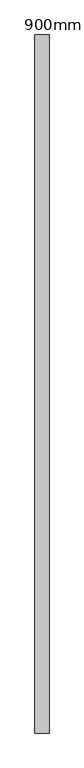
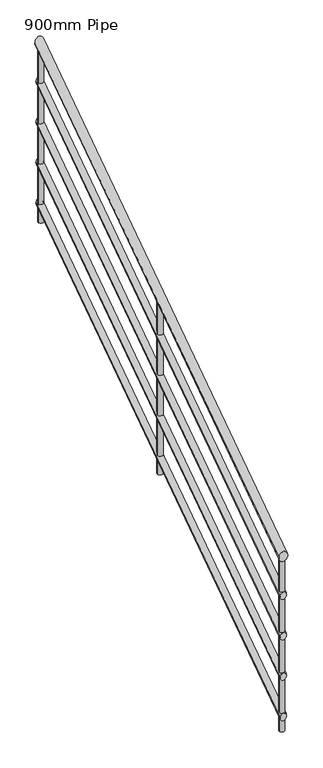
"""IFC4 building model written with IfcOpenShell, lengths in millimetres: railing geometry, 900mm Pipe."""

import ifcopenshell
import ifcopenshell.guid

model = None  # the IFC model being written
_history = None  # IfcOwnerHistory: only IFC2X3 demands one
_inside = {}  # id of a spatial element -> (the spatial element, [elements in it])
_under = {}  # id of a project, library or spatial element -> (it, [spatial elements below it])
_declared = {}  # id of a project -> (the project, [libraries it declares])
_typed = {}  # id of a type object -> (the type object, [elements of that type])
_made_of = {}  # id of a material, layer set ... -> (it, [elements and type objects made of it])


def new_model(schema):
    """Start an empty IFC model of exactly this schema.

    Asked for "IFC4X3", IfcOpenShell would pick the latest addendum, in which some entities
    have other attributes; the version numbers below select the first issue.
    IFC2X3 requires an IfcOwnerHistory on every rooted entity: one is made here for all.
    """
    global model, _history
    if schema == "IFC4X3":
        model = ifcopenshell.file(schema_version=(4, 3, 0, 0))
    else:
        model = ifcopenshell.file(schema=schema)
    _inside.clear()
    _under.clear()
    _declared.clear()
    _typed.clear()
    _made_of.clear()
    _history = None
    if model.schema == "IFC2X3":
        org = make("IfcOrganization", Name="unknown")
        user = make(
            "IfcPersonAndOrganization",
            ThePerson=make("IfcPerson", FamilyName="unknown"),
            TheOrganization=org,
        )
        app = make(
            "IfcApplication",
            ApplicationDeveloper=org,
            Version="unknown",
            ApplicationFullName="unknown",
            ApplicationIdentifier="unknown",
        )
        _history = make(
            "IfcOwnerHistory",
            OwningUser=user,
            OwningApplication=app,
            ChangeAction="ADDED",
            CreationDate=0,
        )
    return model


def make(cls, **values):
    """One entity of the class cls with the attributes given. An attribute that is None is left unset."""
    return model.create_entity(
        cls, **{name: value for name, value in values.items() if value is not None}
    )


def rooted(cls, **values):
    """An entity with a GlobalId (a new one), such as an element, a storey or a relation."""
    return make(cls, GlobalId=ifcopenshell.guid.new(), OwnerHistory=_history, **values)


def si_unit(unit_type, name, prefix=None):
    """IfcSIUnit, for example si_unit("LENGTHUNIT", "METRE", prefix="MILLI")."""
    return make("IfcSIUnit", UnitType=unit_type, Prefix=prefix, Name=name)


def assignment(units):
    """IfcUnitAssignment: the units of a project."""
    return None if units is None else make("IfcUnitAssignment", Units=units)


def point(xyz):
    """IfcCartesianPoint."""
    return None if xyz is None else make("IfcCartesianPoint", Coordinates=xyz)


def direction(xyz):
    """IfcDirection."""
    return None if xyz is None else make("IfcDirection", DirectionRatios=xyz)


def frame(location, z_axis=None, x_axis=None):
    """IfcAxis2Placement3D, a coordinate frame: its origin and axes. An axis left out is left unset."""
    return make(
        "IfcAxis2Placement3D",
        Location=point(location),
        Axis=direction(z_axis),
        RefDirection=direction(x_axis),
    )


def origin():
    """The frame at (0, 0, 0) with its axes left unset."""
    return frame((0.0, 0.0, 0.0))


def place(relative_to, where):
    """IfcLocalPlacement: puts the frame where relative to a parent placement (None: the world)."""
    return make(
        "IfcLocalPlacement", PlacementRelTo=relative_to, RelativePlacement=where
    )


def context(
    kind, dimensions, precision=None, world=None, true_north=None, identifier=None
):
    """IfcGeometricRepresentationContext, for example the 3D "Model" context."""
    return make(
        "IfcGeometricRepresentationContext",
        ContextIdentifier=identifier,
        ContextType=kind,
        CoordinateSpaceDimension=dimensions,
        Precision=precision,
        WorldCoordinateSystem=world,
        TrueNorth=true_north,
    )


def project(units=None, contexts=None):
    """IfcProject with its units and contexts."""
    return rooted(
        "IfcProject",
        Name="project",
        RepresentationContexts=contexts,
        UnitsInContext=assignment(units),
    )


def spatial(cls, under=None, at=None, **own):
    """A site, building, storey or space (cls), placed at a placement, below another one or the project."""
    s = rooted(cls, ObjectPlacement=at, **own)
    if under is not None:
        _under.setdefault(under.id(), (under, []))[1].append(s)
    return s


def circle_curve(where, radius):
    """IfcCircle in the frame where."""
    return make("IfcCircle", Position=where, Radius=radius)


def ellipse_curve(where, semi_axis1, semi_axis2):
    """IfcEllipse in the frame where."""
    return make(
        "IfcEllipse", Position=where, SemiAxis1=semi_axis1, SemiAxis2=semi_axis2
    )


def shape(context_of_items, identifier, shape_type, items):
    """IfcShapeRepresentation: the items that make up one representation, for example the "Body"."""
    return make(
        "IfcShapeRepresentation",
        ContextOfItems=context_of_items,
        RepresentationIdentifier=identifier,
        RepresentationType=shape_type,
        Items=items,
    )


def source(mapping_origin, context_of_items, identifier, shape_type, items):
    """IfcRepresentationMap: a shape defined once, which mapped items show again and again."""
    return make(
        "IfcRepresentationMap",
        MappingOrigin=mapping_origin,
        MappedRepresentation=shape(context_of_items, identifier, shape_type, items),
    )


def transform(
    local_origin,
    x_axis=None,
    y_axis=None,
    z_axis=None,
    scale=None,
    scale2=None,
    scale3=None,
    uniform=True,
):
    """IfcCartesianTransformationOperator3D, or its non-uniform kind. x_axis, y_axis, z_axis: its Axis1, 2, 3."""
    if uniform:
        return make(
            "IfcCartesianTransformationOperator3D",
            Axis1=direction(x_axis),
            Axis2=direction(y_axis),
            LocalOrigin=point(local_origin),
            Scale=scale,
            Axis3=direction(z_axis),
        )
    return make(
        "IfcCartesianTransformationOperator3DnonUniform",
        Axis1=direction(x_axis),
        Axis2=direction(y_axis),
        LocalOrigin=point(local_origin),
        Scale=scale,
        Axis3=direction(z_axis),
        Scale2=scale2,
        Scale3=scale3,
    )


def mapped(mapping_source, mapping_target):
    """IfcMappedItem: shows the shape of a source again, moved by a transform."""
    return make(
        "IfcMappedItem", MappingSource=mapping_source, MappingTarget=mapping_target
    )


def made_of(thing, what):
    """Note that an element or type object is made of a material, layer set ...; save() writes the relation."""
    if what is not None:
        _made_of.setdefault(what.id(), (what, []))[1].append(thing)
    return thing


def element(
    cls,
    number,
    at=None,
    inside=None,
    cuts=None,
    type_object=None,
    material=None,
    context=None,
    identifier="Body",
    shape_type=None,
    held_by="IfcProductDefinitionShape",
    body=None,
    shapes=None,
    **own,
):
    """One element of the class cls, such as IfcWall. Its Tag is "e" and its number.

    at: its placement. inside: the storey or other place that contains it. cuts: it is an
    opening in that element (IfcRelVoidsElement). A single representation is given by context,
    identifier, shape_type and body (its items); several are given by shapes. held_by: the class
    of the entity that holds the representations. save() writes the other relations.
    """
    e = rooted(cls, Tag="e%d" % number, ObjectPlacement=at, **own)
    if body is not None:
        shapes = [shape(context, identifier, shape_type, body)]
    if shapes is not None:
        e.Representation = make(held_by, Representations=shapes)
    if inside is not None:
        _inside.setdefault(inside.id(), (inside, []))[1].append(e)
    if cuts is not None:
        rooted(
            "IfcRelVoidsElement", RelatingBuildingElement=cuts, RelatedOpeningElement=e
        )
    if type_object is not None:
        _typed.setdefault(type_object.id(), (type_object, []))[1].append(e)
    return made_of(e, material)


def aggregate(whole, parts):
    """IfcRelAggregates: a whole, such as a stair, and the parts it consists of."""
    return rooted("IfcRelAggregates", RelatingObject=whole, RelatedObjects=parts)


def save(model, path):
    """Write the relations noted so far, then the file.

    IfcRelAggregates (storeys below a building ...), IfcRelContainedInSpatialStructure (elements
    in a storey), IfcRelDefinesByType, IfcRelAssociatesMaterial and IfcRelDeclares: one each for
    every whole, place, type object, material and project.
    """
    for whole, parts in _under.values():
        aggregate(whole, parts)
    for where, things in _inside.values():
        rooted(
            "IfcRelContainedInSpatialStructure",
            RelatedElements=things,
            RelatingStructure=where,
        )
    for kind, things in _typed.values():
        rooted("IfcRelDefinesByType", RelatedObjects=things, RelatingType=kind)
    for what, things in _made_of.values():
        rooted("IfcRelAssociatesMaterial", RelatedObjects=things, RelatingMaterial=what)
    for by, libraries in _declared.values():
        rooted("IfcRelDeclares", RelatingContext=by, RelatedDefinitions=libraries)
    model.write(path)


def plane_surface(at):
    """IfcPlane: the flat surface through the origin of the frame at, square to its z axis."""
    return make("IfcPlane", Position=at)


def cylinder_surface(at, radius):
    """IfcCylindricalSurface: all points at the distance radius from the z axis of the frame at."""
    return make("IfcCylindricalSurface", Position=at, Radius=radius)


def advanced_brep(points, edges, surfaces, faces):
    """IfcAdvancedBrep: a solid bounded by faces that lie on surfaces and meet in shared edges.

    An edge is (start, end): straight between two places in points (the first is 0);
    or (start, end, curve); or (start, end, curve, False) where it runs against its curve.
    A face is (place in surfaces, loops), or (place, loops, False) where it looks against
    its surface's normal. A loop lists edges by number (the first is 1), with a minus sign
    where the edge is run from its end to its start. The first loop is the outer one.
    """
    corners = [point(p) for p in points]
    vertices = [make("IfcVertexPoint", VertexGeometry=c) for c in corners]
    made = []
    for start, end, *more in edges:
        made.append(
            make(
                "IfcEdgeCurve",
                EdgeStart=vertices[start],
                EdgeEnd=vertices[end],
                EdgeGeometry=more[0] if more else make("IfcPolyline", Points=[corners[start], corners[end]]),
                SameSense=more[1] if len(more) > 1 else True,
            )
        )
    hull = []
    for where, loops, *sense in faces:
        bounds = []
        for j, loop in enumerate(loops):
            ring = [make("IfcOrientedEdge", EdgeElement=made[abs(k) - 1], Orientation=k > 0) for k in loop]
            bounds.append(
                make(
                    "IfcFaceOuterBound" if j == 0 else "IfcFaceBound",
                    Bound=make("IfcEdgeLoop", EdgeList=ring),
                    Orientation=True,
                )
            )
        hull.append(make("IfcAdvancedFace", Bounds=bounds, FaceSurface=surfaces[where], SameSense=sense[0] if sense else True))
    return make("IfcAdvancedBrep", Outer=make("IfcClosedShell", CfsFaces=hull))


def railing_900mm_pipe_c575d317(model_context):
    return source(origin(), model_context, "Body", "AdvancedBrep", [
        advanced_brep(
        [(-7788.3266822, -8881.7671527, -474.2064126), (-7828.3266822, -8881.7671527, -474.2064126), (-7788.3266822, -6901.7671527, 875.7935874), (-7828.3266822, -6901.7671527, 875.7935874)],
        [
            (0, 1, ellipse_curve(frame((-7808.3266822, -8881.7671527, -474.2064126), z_axis=(0.0, -1.0, 0.0), x_axis=(0.0, 0.0, -1.0)), 24.2064126, 20.0)),
            (1, 0, ellipse_curve(frame((-7808.3266822, -8881.7671527, -474.2064126), z_axis=(0.0, -1.0, 0.0), x_axis=(0.0, 0.0, -1.0)), 24.2064126, 20.0)),
            (2, 3, ellipse_curve(frame((-7808.3266822, -6901.7671527, 875.7935874), z_axis=(0.0, 1.0, 0.0), x_axis=(0.0, 0.0, -1.0)), 24.2064126, 20.0)),
            (3, 2, ellipse_curve(frame((-7808.3266822, -6901.7671527, 875.7935874), z_axis=(0.0, 1.0, 0.0), x_axis=(0.0, 0.0, -1.0)), 24.2064126, 20.0)),
            (0, 2),
            (3, 1),
        ],
        [
            plane_surface(frame((-7808.3266822, -8881.7671527, -450.0), z_axis=(0.0, -1.0, 0.0), x_axis=(0.0, 0.0, 1.0))),
            plane_surface(frame((-7808.3266822, -6901.7671527, 900.0), z_axis=(0.0, 1.0, 0.0), x_axis=(0.0, 0.0, 1.0))),
            cylinder_surface(frame((-7808.3266822, -8870.5004163, -466.5245469), z_axis=(0.0, -0.8262273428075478, -0.5633368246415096), x_axis=(-1.0, 0.0, 0.0)), 20.0),
        ],
        [
            (0, [[1, 2]]),
            (1, [[3, 4]]),
            (2, [[-1, 5, -4, 6]]),
            (2, [[-2, -6, -3, -5]]),
        ],
    ),
        advanced_brep(
        [(-7793.3266822, -8881.7671527, -668.1548095), (-7823.3266822, -8881.7671527, -668.1548095), (-7793.3266822, -6901.7671527, 681.8451905), (-7823.3266822, -6901.7671527, 681.8451905)],
        [
            (0, 1, ellipse_curve(frame((-7808.3266822, -8881.7671527, -668.1548095), z_axis=(0.0, -1.0, 0.0), x_axis=(0.0, 0.0, -1.0)), 18.1548095, 15.0)),
            (1, 0, ellipse_curve(frame((-7808.3266822, -8881.7671527, -668.1548095), z_axis=(0.0, -1.0, 0.0), x_axis=(0.0, 0.0, -1.0)), 18.1548095, 15.0)),
            (2, 3, ellipse_curve(frame((-7808.3266822, -6901.7671527, 681.8451905), z_axis=(0.0, 1.0, 0.0), x_axis=(0.0, 0.0, -1.0)), 18.1548095, 15.0)),
            (3, 2, ellipse_curve(frame((-7808.3266822, -6901.7671527, 681.8451905), z_axis=(0.0, 1.0, 0.0), x_axis=(0.0, 0.0, -1.0)), 18.1548095, 15.0)),
            (0, 2),
            (3, 1),
        ],
        [
            plane_surface(frame((-7808.3266822, -8881.7671527, -650.0), z_axis=(0.0, -1.0, 0.0), x_axis=(0.0, 0.0, 1.0))),
            plane_surface(frame((-7808.3266822, -6901.7671527, 700.0), z_axis=(0.0, 1.0, 0.0), x_axis=(0.0, 0.0, 1.0))),
            cylinder_surface(frame((-7808.3266822, -8873.3171004, -662.3934101), z_axis=(0.0, -0.8262273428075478, -0.5633368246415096), x_axis=(-1.0, 0.0, 0.0)), 15.0),
        ],
        [
            (0, [[1, 2]]),
            (1, [[3, 4]]),
            (2, [[-1, 5, -4, 6]]),
            (2, [[-2, -6, -3, -5]]),
        ],
    ),
        advanced_brep(
        [(-7793.3266822, -8881.7671527, -868.1548095), (-7823.3266822, -8881.7671527, -868.1548095), (-7793.3266822, -6901.7671527, 481.8451905), (-7823.3266822, -6901.7671527, 481.8451905)],
        [
            (0, 1, ellipse_curve(frame((-7808.3266822, -8881.7671527, -868.1548095), z_axis=(0.0, -1.0, 0.0), x_axis=(0.0, 0.0, -1.0)), 18.1548095, 15.0)),
            (1, 0, ellipse_curve(frame((-7808.3266822, -8881.7671527, -868.1548095), z_axis=(0.0, -1.0, 0.0), x_axis=(0.0, 0.0, -1.0)), 18.1548095, 15.0)),
            (2, 3, ellipse_curve(frame((-7808.3266822, -6901.7671527, 481.8451905), z_axis=(0.0, 1.0, 0.0), x_axis=(0.0, 0.0, -1.0)), 18.1548095, 15.0)),
            (3, 2, ellipse_curve(frame((-7808.3266822, -6901.7671527, 481.8451905), z_axis=(0.0, 1.0, 0.0), x_axis=(0.0, 0.0, -1.0)), 18.1548095, 15.0)),
            (0, 2),
            (3, 1),
        ],
        [
            plane_surface(frame((-7808.3266822, -8881.7671527, -850.0), z_axis=(0.0, -1.0, 0.0), x_axis=(0.0, 0.0, 1.0))),
            plane_surface(frame((-7808.3266822, -6901.7671527, 500.0), z_axis=(0.0, 1.0, 0.0), x_axis=(0.0, 0.0, 1.0))),
            cylinder_surface(frame((-7808.3266822, -8873.3171004, -862.3934101), z_axis=(0.0, -0.8262273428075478, -0.5633368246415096), x_axis=(-1.0, 0.0, 0.0)), 15.0),
        ],
        [
            (0, [[1, 2]]),
            (1, [[3, 4]]),
            (2, [[-1, 5, -4, 6]]),
            (2, [[-2, -6, -3, -5]]),
        ],
    ),
        advanced_brep(
        [(-7793.3266822, -8881.7671527, -1068.1548095), (-7823.3266822, -8881.7671527, -1068.1548095), (-7793.3266822, -6901.7671527, 281.8451905), (-7823.3266822, -6901.7671527, 281.8451905)],
        [
            (0, 1, ellipse_curve(frame((-7808.3266822, -8881.7671527, -1068.1548095), z_axis=(0.0, -1.0, 0.0), x_axis=(0.0, 0.0, -1.0)), 18.1548095, 15.0)),
            (1, 0, ellipse_curve(frame((-7808.3266822, -8881.7671527, -1068.1548095), z_axis=(0.0, -1.0, 0.0), x_axis=(0.0, 0.0, -1.0)), 18.1548095, 15.0)),
            (2, 3, ellipse_curve(frame((-7808.3266822, -6901.7671527, 281.8451905), z_axis=(0.0, 1.0, 0.0), x_axis=(0.0, 0.0, -1.0)), 18.1548095, 15.0)),
            (3, 2, ellipse_curve(frame((-7808.3266822, -6901.7671527, 281.8451905), z_axis=(0.0, 1.0, 0.0), x_axis=(0.0, 0.0, -1.0)), 18.1548095, 15.0)),
            (0, 2),
            (3, 1),
        ],
        [
            plane_surface(frame((-7808.3266822, -8881.7671527, -1050.0), z_axis=(0.0, -1.0, 0.0), x_axis=(0.0, 0.0, 1.0))),
            plane_surface(frame((-7808.3266822, -6901.7671527, 300.0), z_axis=(0.0, 1.0, 0.0), x_axis=(0.0, 0.0, 1.0))),
            cylinder_surface(frame((-7808.3266822, -8873.3171004, -1062.3934101), z_axis=(0.0, -0.8262273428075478, -0.5633368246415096), x_axis=(-1.0, 0.0, 0.0)), 15.0),
        ],
        [
            (0, [[1, 2]]),
            (1, [[3, 4]]),
            (2, [[-1, 5, -4, 6]]),
            (2, [[-2, -6, -3, -5]]),
        ],
    ),
        advanced_brep(
        [(-7793.3266822, -8881.7671527, -1268.1548095), (-7823.3266822, -8881.7671527, -1268.1548095), (-7793.3266822, -6901.7671527, 81.8451905), (-7823.3266822, -6901.7671527, 81.8451905)],
        [
            (0, 1, ellipse_curve(frame((-7808.3266822, -8881.7671527, -1268.1548095), z_axis=(0.0, -1.0, 0.0), x_axis=(0.0, 0.0, -1.0)), 18.1548095, 15.0)),
            (1, 0, ellipse_curve(frame((-7808.3266822, -8881.7671527, -1268.1548095), z_axis=(0.0, -1.0, 0.0), x_axis=(0.0, 0.0, -1.0)), 18.1548095, 15.0)),
            (2, 3, ellipse_curve(frame((-7808.3266822, -6901.7671527, 81.8451905), z_axis=(0.0, 1.0, 0.0), x_axis=(0.0, 0.0, -1.0)), 18.1548095, 15.0)),
            (3, 2, ellipse_curve(frame((-7808.3266822, -6901.7671527, 81.8451905), z_axis=(0.0, 1.0, 0.0), x_axis=(0.0, 0.0, -1.0)), 18.1548095, 15.0)),
            (0, 2),
            (3, 1),
        ],
        [
            plane_surface(frame((-7808.3266822, -8881.7671527, -1250.0), z_axis=(0.0, -1.0, 0.0), x_axis=(0.0, 0.0, 1.0))),
            plane_surface(frame((-7808.3266822, -6901.7671527, 100.0), z_axis=(0.0, 1.0, 0.0), x_axis=(0.0, 0.0, 1.0))),
            cylinder_surface(frame((-7808.3266822, -8873.3171004, -1262.3934101), z_axis=(0.0, -0.8262273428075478, -0.5633368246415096), x_axis=(-1.0, 0.0, 0.0)), 15.0),
        ],
        [
            (0, [[1, 2]]),
            (1, [[3, 4]]),
            (2, [[-1, 5, -4, 6]]),
            (2, [[-2, -6, -3, -5]]),
        ],
    ),
        advanced_brep(
        [(-7820.8266822, -7881.7671527, 183.4053565), (-7795.8266822, -7881.7671527, 183.4053565), (-7795.8266822, -7881.7671527, -668.1818182), (-7820.8266822, -7881.7671527, -668.1818182)],
        [
            (0, 1, ellipse_curve(frame((-7808.3266822, -7881.7671527, 183.4053565), z_axis=(0.0, 0.5633368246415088, -0.8262273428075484), x_axis=(0.0, 0.8262273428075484, 0.5633368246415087)), 15.1290079, 12.5)),
            (1, 2),
            (2, 3, circle_curve(frame((-7808.3266822, -7881.7671527, -668.1818182), z_axis=(0.0, 0.0, 1.0), x_axis=(1.0, 0.0, 0.0)), 12.5)),
            (3, 0),
            (3, 2, circle_curve(frame((-7808.3266822, -7881.7671527, -668.1818182), z_axis=(0.0, 0.0, 1.0), x_axis=(1.0, 0.0, 0.0)), 12.5)),
            (1, 0, ellipse_curve(frame((-7808.3266822, -7881.7671527, 183.4053565), z_axis=(0.0, 0.5633368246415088, -0.8262273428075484), x_axis=(0.0, 0.8262273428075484, 0.5633368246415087)), 15.1290079, 12.5)),
        ],
        [
            cylinder_surface(frame((-7808.3266822, -7881.7671527, -768.1818182), z_axis=(0.0, 0.0, 1.0), x_axis=(1.0, 0.0, 0.0)), 12.5),
            plane_surface(frame((-7783.3266822, -7856.7671527, 200.4508111), z_axis=(0.0, -0.5633368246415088, 0.8262273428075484), x_axis=(-1.0, 0.0, 0.0))),
            plane_surface(frame((-7783.3266822, -7906.7671527, -668.1818182), z_axis=(0.0, 0.0, -1.0), x_axis=(-1.0, 0.0, 0.0))),
        ],
        [
            (0, [[1, 2, 3, 4]]),
            (0, [[5, -2, 6, -4]]),
            (1, [[-6, -1]]),
            (2, [[-5, -3]]),
        ],
    ),
        advanced_brep(
        [(-7820.8266822, -6914.2671527, 843.0644474), (-7795.8266822, -6914.2671527, 843.0644474), (-7795.8266822, -6914.2671527, -8.5227273), (-7820.8266822, -6914.2671527, -8.5227273)],
        [
            (0, 1, ellipse_curve(frame((-7808.3266822, -6914.2671527, 843.0644474), z_axis=(0.0, 0.5633368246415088, -0.8262273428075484), x_axis=(0.0, 0.8262273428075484, 0.5633368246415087)), 15.1290079, 12.5)),
            (1, 2),
            (2, 3, circle_curve(frame((-7808.3266822, -6914.2671527, -8.5227273), z_axis=(0.0, 0.0, 1.0), x_axis=(1.0, 0.0, 0.0)), 12.5)),
            (3, 0),
            (3, 2, circle_curve(frame((-7808.3266822, -6914.2671527, -8.5227273), z_axis=(0.0, 0.0, 1.0), x_axis=(1.0, 0.0, 0.0)), 12.5)),
            (1, 0, ellipse_curve(frame((-7808.3266822, -6914.2671527, 843.0644474), z_axis=(0.0, 0.5633368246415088, -0.8262273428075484), x_axis=(0.0, 0.8262273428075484, 0.5633368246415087)), 15.1290079, 12.5)),
        ],
        [
            cylinder_surface(frame((-7808.3266822, -6914.2671527, -108.5227273), z_axis=(0.0, 0.0, 1.0), x_axis=(1.0, 0.0, 0.0)), 12.5),
            plane_surface(frame((-7783.3266822, -6889.2671527, 860.109902), z_axis=(0.0, -0.5633368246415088, 0.8262273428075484), x_axis=(-1.0, 0.0, 0.0))),
            plane_surface(frame((-7783.3266822, -6939.2671527, -8.5227273), z_axis=(0.0, 0.0, -1.0), x_axis=(-1.0, 0.0, 0.0))),
        ],
        [
            (0, [[1, 2, 3, 4]]),
            (0, [[5, -2, 6, -4]]),
            (1, [[-6, -1]]),
            (2, [[-5, -3]]),
        ],
    ),
        advanced_brep(
        [(-7820.8266822, -8869.2671527, -489.890098), (-7795.8266822, -8869.2671527, -489.890098), (-7795.8266822, -8869.2671527, -1341.4772727), (-7820.8266822, -8869.2671527, -1341.4772727)],
        [
            (0, 1, ellipse_curve(frame((-7808.3266822, -8869.2671527, -489.890098), z_axis=(0.0, 0.5633368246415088, -0.8262273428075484), x_axis=(0.0, 0.8262273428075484, 0.5633368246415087)), 15.1290079, 12.5)),
            (1, 2),
            (2, 3, circle_curve(frame((-7808.3266822, -8869.2671527, -1341.4772727), z_axis=(0.0, 0.0, 1.0), x_axis=(1.0, 0.0, 0.0)), 12.5)),
            (3, 0),
            (3, 2, circle_curve(frame((-7808.3266822, -8869.2671527, -1341.4772727), z_axis=(0.0, 0.0, 1.0), x_axis=(1.0, 0.0, 0.0)), 12.5)),
            (1, 0, ellipse_curve(frame((-7808.3266822, -8869.2671527, -489.890098), z_axis=(0.0, 0.5633368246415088, -0.8262273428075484), x_axis=(0.0, 0.8262273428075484, 0.5633368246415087)), 15.1290079, 12.5)),
        ],
        [
            cylinder_surface(frame((-7808.3266822, -8869.2671527, -1441.4772727), z_axis=(0.0, 0.0, 1.0), x_axis=(1.0, 0.0, 0.0)), 12.5),
            plane_surface(frame((-7783.3266822, -8844.2671527, -472.8446435), z_axis=(0.0, -0.5633368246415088, 0.8262273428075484), x_axis=(-1.0, 0.0, 0.0))),
            plane_surface(frame((-7783.3266822, -8894.2671527, -1341.4772727), z_axis=(0.0, 0.0, -1.0), x_axis=(-1.0, 0.0, 0.0))),
        ],
        [
            (0, [[1, 2, 3, 4]]),
            (0, [[5, -2, 6, -4]]),
            (1, [[-6, -1]]),
            (2, [[-5, -3]]),
        ],
    ),
    ])


if __name__ == "__main__":
    model = new_model("IFC4")
    model_context = context("Model", 3, world=origin())
    ifc_project = project(units=[si_unit("LENGTHUNIT", "METRE", prefix="MILLI")], contexts=[model_context])
    site = spatial("IfcSite", under=ifc_project)
    building = spatial("IfcBuilding", under=site)
    placement = place(None, origin())
    railing_900mm_pipe_shape = railing_900mm_pipe_c575d317(model_context)
    element("IfcRailing", 1, ObjectType="900mm Pipe", at=placement, inside=building, context=model_context, shape_type="MappedRepresentation", body=[
        mapped(railing_900mm_pipe_shape, transform((0.0, 0.0, 0.0), x_axis=(1.0, 0.0, 0.0), y_axis=(0.0, 1.0, 0.0), z_axis=(0.0, 0.0, 1.0))),
    ])
    save(model, "model.ifc")
